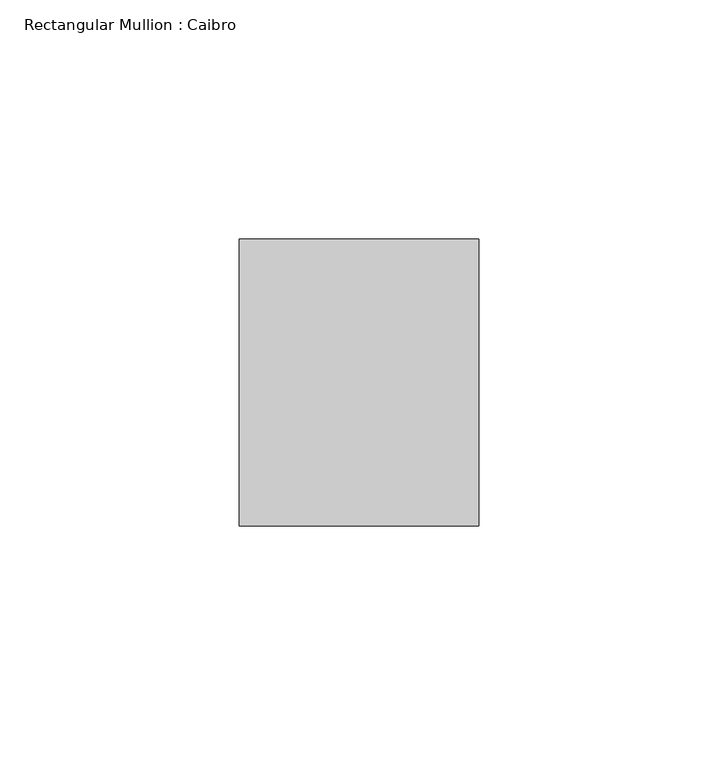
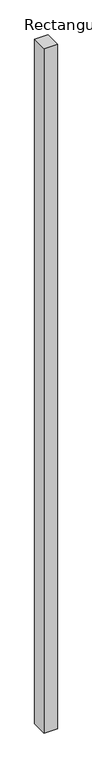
"""IFC4 building model written with IfcOpenShell, lengths in millimetres: member geometry, Rectangular Mullion : Caibro."""

from ifc_helpers import new_model, si_unit, frame, origin, place, context, project, spatial, polyline, outline, extrude, source, transform, mapped, element, save


def rectangular_mullion_caibro_51e85f04(model_context):
    return source(origin(), model_context, "Body", "SweptSolid", [
        extrude(outline(polyline([(-25.0, -60.0), (-25.0, 0.0), (25.0, 0.0), (25.0, -60.0), (-25.0, -60.0)])), frame((0.0, 0.0, -2710.5804586), z_axis=(0.0, 0.0, 1.0), x_axis=(1.0, 0.0, 0.0)), (0.0, 0.0, 1.0), 2710.5804586),
    ])


if __name__ == "__main__":
    model = new_model("IFC4")
    model_context = context("Model", 3, world=origin())
    ifc_project = project(units=[si_unit("LENGTHUNIT", "METRE", prefix="MILLI")], contexts=[model_context])
    site = spatial("IfcSite", under=ifc_project)
    building = spatial("IfcBuilding", under=site)
    placement = place(None, origin())
    rectangular_mullion_caibro_shape = rectangular_mullion_caibro_51e85f04(model_context)
    element("IfcMember", 1, ObjectType="Rectangular Mullion : Caibro", at=placement, inside=building, context=model_context, shape_type="MappedRepresentation", body=[
        mapped(rectangular_mullion_caibro_shape, transform((0.0, 0.0, 0.0), x_axis=(1.0, 0.0, 0.0), y_axis=(0.0, 1.0, 0.0), z_axis=(0.0, 0.0, 1.0))),
    ])
    save(model, "model.ifc")
